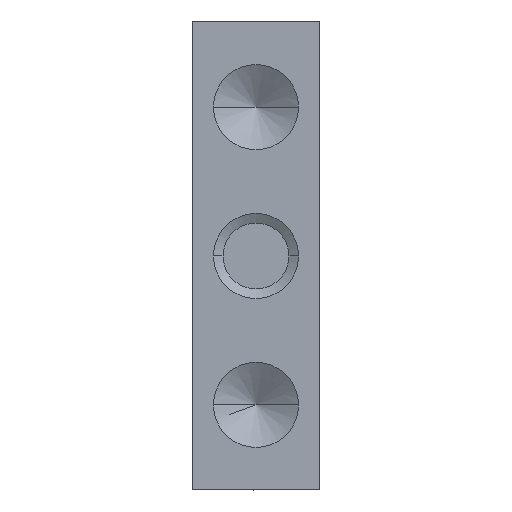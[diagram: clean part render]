
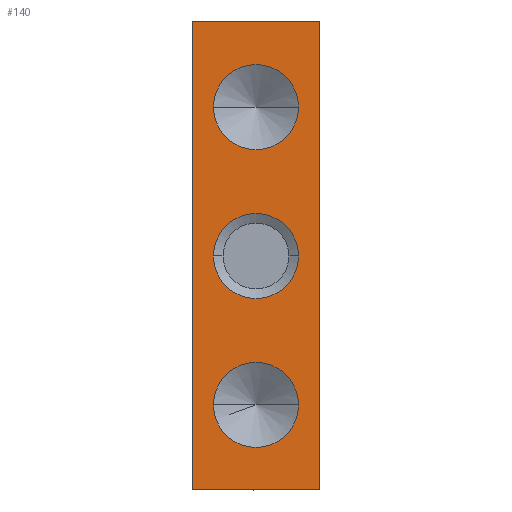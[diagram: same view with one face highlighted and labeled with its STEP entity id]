
A CAD part, front view. The second image highlights one B-rep face of the part: STEP entity #140.
In plain terms, the highlighted planar face has unit normal (0, -1, 0).
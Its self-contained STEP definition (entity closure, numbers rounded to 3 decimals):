
#140=ADVANCED_FACE('',(#496,#497,#498,#312),#1596,.T.);
#312=FACE_OUTER_BOUND('',#526,.F.);
#496=FACE_BOUND('',#523,.F.);
#497=FACE_BOUND('',#524,.F.);
#498=FACE_BOUND('',#525,.F.);
#523=EDGE_LOOP('',(#853,#854));
#524=EDGE_LOOP('',(#855,#856));
#525=EDGE_LOOP('',(#857,#858));
#526=EDGE_LOOP('',(#859,#860,#861,#862));
#853=ORIENTED_EDGE('',*,*,#2477,.T.);
#854=ORIENTED_EDGE('',*,*,#2476,.T.);
#855=ORIENTED_EDGE('',*,*,#2479,.T.);
#856=ORIENTED_EDGE('',*,*,#2478,.T.);
#857=ORIENTED_EDGE('',*,*,#2475,.T.);
#858=ORIENTED_EDGE('',*,*,#2474,.T.);
#859=ORIENTED_EDGE('',*,*,#2480,.T.);
#860=ORIENTED_EDGE('',*,*,#2452,.F.);
#861=ORIENTED_EDGE('',*,*,#2482,.F.);
#862=ORIENTED_EDGE('',*,*,#2484,.T.);
#1596=PLANE('',#3439);
#1828=LINE('',#5029,#2098);
#1850=LINE('',#5057,#2120);
#1852=LINE('',#5059,#2122);
#1854=LINE('',#5061,#2124);
#2098=VECTOR('',#3809,12.);
#2120=VECTOR('',#3843,44.);
#2122=VECTOR('',#3845,44.);
#2124=VECTOR('',#3847,12.);
#2452=EDGE_CURVE('',#3106,#3105,#1828,.T.);
#2474=EDGE_CURVE('',#3086,#3085,#2843,.T.);
#2475=EDGE_CURVE('',#3085,#3086,#2844,.T.);
#2476=EDGE_CURVE('',#3084,#3083,#2845,.T.);
#2477=EDGE_CURVE('',#3083,#3084,#2846,.T.);
#2478=EDGE_CURVE('',#3082,#3081,#2847,.T.);
#2479=EDGE_CURVE('',#3081,#3082,#2848,.T.);
#2480=EDGE_CURVE('',#3080,#3105,#1850,.T.);
#2482=EDGE_CURVE('',#3079,#3106,#1852,.T.);
#2484=EDGE_CURVE('',#3079,#3080,#1854,.T.);
#2843=CIRCLE('',#3336,4.);
#2844=CIRCLE('',#3337,4.);
#2845=CIRCLE('',#3338,4.);
#2846=CIRCLE('',#3339,4.);
#2847=CIRCLE('',#3340,4.);
#2848=CIRCLE('',#3341,4.);
#3079=VERTEX_POINT('',#4710);
#3080=VERTEX_POINT('',#4711);
#3081=VERTEX_POINT('',#4712);
#3082=VERTEX_POINT('',#4713);
#3083=VERTEX_POINT('',#4714);
#3084=VERTEX_POINT('',#4715);
#3085=VERTEX_POINT('',#4716);
#3086=VERTEX_POINT('',#4717);
#3105=VERTEX_POINT('',#4736);
#3106=VERTEX_POINT('',#4737);
#3336=AXIS2_PLACEMENT_3D('',#5051,#3831,#3832);
#3337=AXIS2_PLACEMENT_3D('',#5052,#3833,#3834);
#3338=AXIS2_PLACEMENT_3D('',#5053,#3835,#3836);
#3339=AXIS2_PLACEMENT_3D('',#5054,#3837,#3838);
#3340=AXIS2_PLACEMENT_3D('',#5055,#3839,#3840);
#3341=AXIS2_PLACEMENT_3D('',#5056,#3841,#3842);
#3439=AXIS2_PLACEMENT_3D('',#5387,#4232,#4233);
#3809=DIRECTION('',(1.,0.,0.));
#3831=DIRECTION('',(0.,-1.,0.));
#3832=DIRECTION('',(1.,0.,0.));
#3833=DIRECTION('',(0.,-1.,0.));
#3834=DIRECTION('',(-1.,0.,0.));
#3835=DIRECTION('',(0.,-1.,0.));
#3836=DIRECTION('',(1.,0.,0.));
#3837=DIRECTION('',(0.,-1.,0.));
#3838=DIRECTION('',(-1.,0.,0.));
#3839=DIRECTION('',(0.,-1.,0.));
#3840=DIRECTION('',(1.,0.,0.));
#3841=DIRECTION('',(0.,-1.,0.));
#3842=DIRECTION('',(-1.,0.,0.));
#3843=DIRECTION('',(0.,0.,-1.));
#3845=DIRECTION('',(0.,0.,-1.));
#3847=DIRECTION('',(1.,0.,0.));
#4232=DIRECTION('',(0.,-1.,0.));
#4233=DIRECTION('',(0.,0.,-1.));
#4710=CARTESIAN_POINT('',(174.487,-22.558,58.975));
#4711=CARTESIAN_POINT('',(186.487,-22.558,58.975));
#4712=CARTESIAN_POINT('',(176.487,-22.558,50.975));
#4713=CARTESIAN_POINT('',(184.487,-22.558,50.975));
#4714=CARTESIAN_POINT('',(176.487,-22.558,36.975));
#4715=CARTESIAN_POINT('',(184.487,-22.558,36.975));
#4716=CARTESIAN_POINT('',(176.487,-22.558,22.975));
#4717=CARTESIAN_POINT('',(184.487,-22.558,22.975));
#4736=CARTESIAN_POINT('',(186.487,-22.558,14.975));
#4737=CARTESIAN_POINT('',(174.487,-22.558,14.975));
#5029=CARTESIAN_POINT('',(174.487,-22.558,14.975));
#5051=CARTESIAN_POINT('',(180.487,-22.558,22.975));
#5052=CARTESIAN_POINT('',(180.487,-22.558,22.975));
#5053=CARTESIAN_POINT('',(180.487,-22.558,36.975));
#5054=CARTESIAN_POINT('',(180.487,-22.558,36.975));
#5055=CARTESIAN_POINT('',(180.487,-22.558,50.975));
#5056=CARTESIAN_POINT('',(180.487,-22.558,50.975));
#5057=CARTESIAN_POINT('',(186.487,-22.558,58.975));
#5059=CARTESIAN_POINT('',(174.487,-22.558,58.975));
#5061=CARTESIAN_POINT('',(174.487,-22.558,58.975));
#5387=CARTESIAN_POINT('',(174.047,-22.558,59.415));
